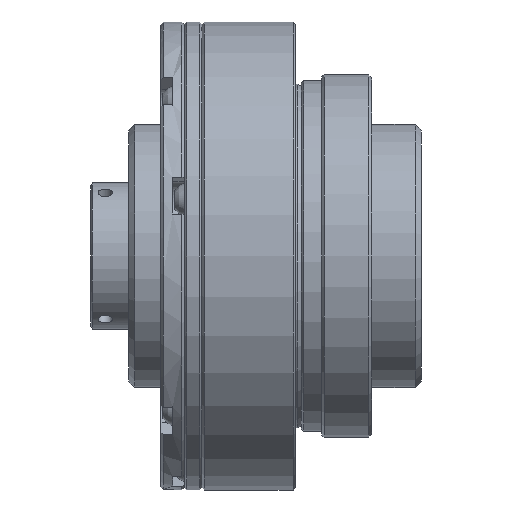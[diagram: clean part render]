
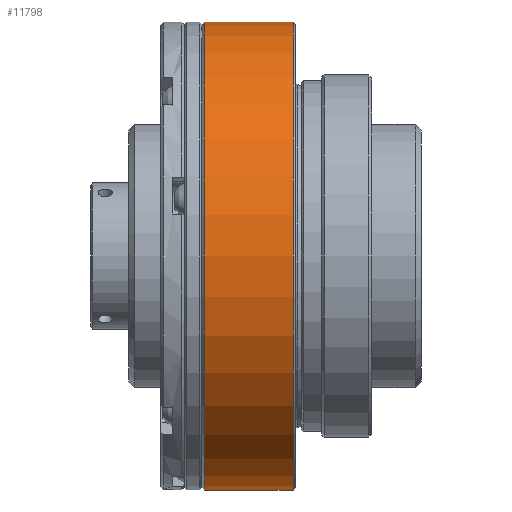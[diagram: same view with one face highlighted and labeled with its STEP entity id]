
A CAD part, front view. The second image highlights one B-rep face of the part: STEP entity #11798.
In plain terms, the highlighted cylindrical face has radius 40 mm (diameter 80 mm), a full revolution.
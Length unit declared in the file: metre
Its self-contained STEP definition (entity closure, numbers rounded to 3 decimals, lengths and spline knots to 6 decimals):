
#1420 = DIRECTION ( 'NONE',  ( 1., 0., 0. ) ) ;
#3777 = VERTEX_POINT ( 'NONE', #6919 ) ;
#4961 = CIRCLE ( 'NONE', #18841, 0.04 ) ;
#6326 = EDGE_CURVE ( 'NONE', #3777, #3777, #27366, .T. ) ;
#6919 = CARTESIAN_POINT ( 'NONE',  ( 0.0194, 0., 0.04 ) ) ;
#8773 = DIRECTION ( 'NONE',  ( -1., 0., 0. ) ) ;
#11798 = ADVANCED_FACE ( 'NONE', ( #20891, #32249 ), #28637, .T. ) ;
#12959 = DIRECTION ( 'NONE',  ( 0., 0., 1. ) ) ;
#17462 = VERTEX_POINT ( 'NONE', #23775 ) ;
#18841 = AXIS2_PLACEMENT_3D ( 'NONE', #30767, #8773, #35106 ) ;
#20144 = ORIENTED_EDGE ( 'NONE', *, *, #31750, .T. ) ;
#20385 = AXIS2_PLACEMENT_3D ( 'NONE', #42217, #1420, #30907 ) ;
#20510 = AXIS2_PLACEMENT_3D ( 'NONE', #31291, #45968, #12959 ) ;
#20891 = FACE_OUTER_BOUND ( 'NONE', #22020, .T. ) ;
#22020 = EDGE_LOOP ( 'NONE', ( #20144 ) ) ;
#23775 = CARTESIAN_POINT ( 'NONE',  ( 0.0346, 0., 0.04 ) ) ;
#27366 = CIRCLE ( 'NONE', #20385, 0.04 ) ;
#28637 = CYLINDRICAL_SURFACE ( 'NONE', #20510, 0.04 ) ;
#30767 = CARTESIAN_POINT ( 'NONE',  ( 0.0346, 0., 0. ) ) ;
#30907 = DIRECTION ( 'NONE',  ( 0., 0., 1. ) ) ;
#31291 = CARTESIAN_POINT ( 'NONE',  ( 0.019, 0., 0. ) ) ;
#31687 = ORIENTED_EDGE ( 'NONE', *, *, #6326, .T. ) ;
#31750 = EDGE_CURVE ( 'NONE', #17462, #17462, #4961, .T. ) ;
#32249 = FACE_OUTER_BOUND ( 'NONE', #38003, .T. ) ;
#35106 = DIRECTION ( 'NONE',  ( 0., 0., 1. ) ) ;
#38003 = EDGE_LOOP ( 'NONE', ( #31687 ) ) ;
#42217 = CARTESIAN_POINT ( 'NONE',  ( 0.0194, 0., 0. ) ) ;
#45968 = DIRECTION ( 'NONE',  ( -1., 0., 0. ) ) ;
